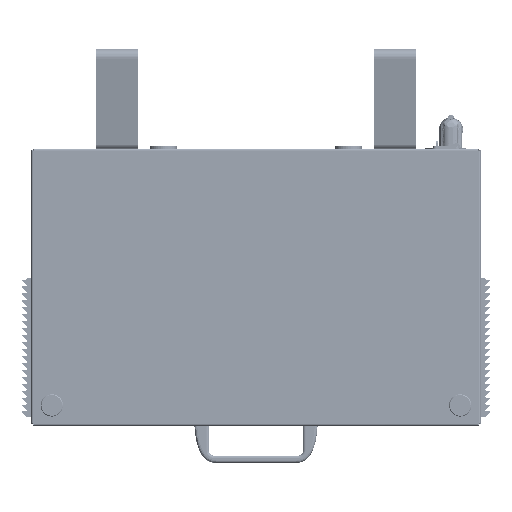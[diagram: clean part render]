
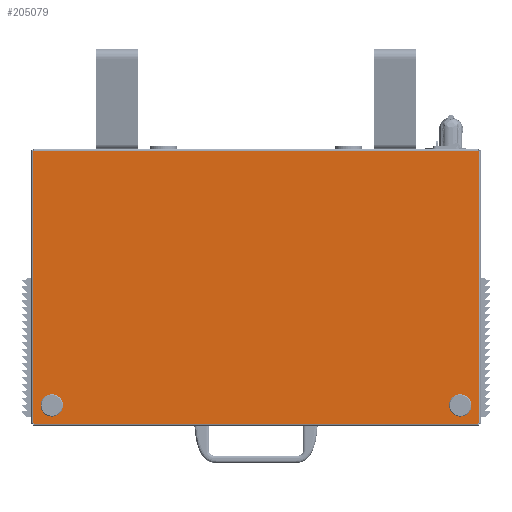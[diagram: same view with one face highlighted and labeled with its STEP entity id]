
A CAD part, front view. The second image highlights one B-rep face of the part: STEP entity #205079.
In plain terms, the highlighted planar face has unit normal (0, -1, 0).
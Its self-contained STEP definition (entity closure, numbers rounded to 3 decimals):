
#4456 = FACE_OUTER_BOUND ( 'NONE', #41337, .T. ) ;
#7977 = DIRECTION ( 'NONE',  ( 0., -1., 0. ) ) ;
#8018 = PLANE ( 'NONE',  #212602 ) ;
#8194 = EDGE_CURVE ( 'NONE', #258047, #339895, #63249, .T. ) ;
#30564 = CARTESIAN_POINT ( 'NONE',  ( -240.5, -1.2, -147.5 ) ) ;
#31804 = CARTESIAN_POINT ( 'NONE',  ( 0., -1.2, 0. ) ) ;
#32882 = CARTESIAN_POINT ( 'NONE',  ( -239.837, -1.2, -147.5 ) ) ;
#34088 = VERTEX_POINT ( 'NONE', #276323 ) ;
#35593 = AXIS2_PLACEMENT_3D ( 'NONE', #187916, #330021, #299119 ) ;
#35701 = CARTESIAN_POINT ( 'NONE',  ( 239.837, -1.2, 147.5 ) ) ;
#40310 = CARTESIAN_POINT ( 'NONE',  ( 220.5, -1.2, -131.5 ) ) ;
#41337 = EDGE_LOOP ( 'NONE', ( #113770, #277951, #53754, #291619, #253156, #264934, #174323, #214415 ) ) ;
#42402 = EDGE_CURVE ( 'NONE', #360351, #359265, #192575, .T. ) ;
#42729 = VECTOR ( 'NONE', #49772, 1000. ) ;
#44628 = EDGE_CURVE ( 'NONE', #359265, #360351, #287897, .T. ) ;
#47500 = DIRECTION ( 'NONE',  ( 0., 0., -1. ) ) ;
#49772 = DIRECTION ( 'NONE',  ( 1., 0., 0. ) ) ;
#51180 = CARTESIAN_POINT ( 'NONE',  ( 220.5, -1.2, -127.5 ) ) ;
#51356 = DIRECTION ( 'NONE',  ( 0., 0., 1. ) ) ;
#53754 = ORIENTED_EDGE ( 'NONE', *, *, #275795, .F. ) ;
#54575 = AXIS2_PLACEMENT_3D ( 'NONE', #126726, #101223, #157549 ) ;
#56749 = LINE ( 'NONE', #109552, #130066 ) ;
#62701 = FACE_BOUND ( 'NONE', #178696, .T. ) ;
#63249 = LINE ( 'NONE', #30564, #258014 ) ;
#73033 = CARTESIAN_POINT ( 'NONE',  ( 240.793, -1.2, 147.793 ) ) ;
#73337 = VERTEX_POINT ( 'NONE', #35701 ) ;
#79458 = CARTESIAN_POINT ( 'NONE',  ( 240.5, -1.2, -147.5 ) ) ;
#81415 = CIRCLE ( 'NONE', #284976, 4. ) ;
#82081 = AXIS2_PLACEMENT_3D ( 'NONE', #51180, #160332, #216877 ) ;
#85195 = DIRECTION ( 'NONE',  ( -1., 0., 0. ) ) ;
#85264 = DIRECTION ( 'NONE',  ( 0., -1., 0. ) ) ;
#85271 = VERTEX_POINT ( 'NONE', #162377 ) ;
#95729 = VERTEX_POINT ( 'NONE', #245304 ) ;
#98086 = AXIS2_PLACEMENT_3D ( 'NONE', #209675, #176895, #318955 ) ;
#99919 = VERTEX_POINT ( 'NONE', #40310 ) ;
#101223 = DIRECTION ( 'NONE',  ( 0., -1., 0. ) ) ;
#101861 = EDGE_CURVE ( 'NONE', #99919, #34088, #175062, .T. ) ;
#103805 = CIRCLE ( 'NONE', #98086, 1. ) ;
#109552 = CARTESIAN_POINT ( 'NONE',  ( -240.5, -1.2, -147.5 ) ) ;
#110158 = CARTESIAN_POINT ( 'NONE',  ( 240.5, -1.2, 146.837 ) ) ;
#110706 = EDGE_LOOP ( 'NONE', ( #261666, #219644 ) ) ;
#113770 = ORIENTED_EDGE ( 'NONE', *, *, #339437, .F. ) ;
#113951 = LINE ( 'NONE', #79458, #152045 ) ;
#115546 = DIRECTION ( 'NONE',  ( 0., 1., 0. ) ) ;
#116175 = DIRECTION ( 'NONE',  ( 0., 0., -1. ) ) ;
#116869 = CARTESIAN_POINT ( 'NONE',  ( 239.837, -1.2, -147.5 ) ) ;
#117959 = CARTESIAN_POINT ( 'NONE',  ( 240.793, -1.2, -147.793 ) ) ;
#119063 = DIRECTION ( 'NONE',  ( 0., 0., -1. ) ) ;
#126726 = CARTESIAN_POINT ( 'NONE',  ( -240.793, -1.2, -147.793 ) ) ;
#130066 = VECTOR ( 'NONE', #51356, 1000. ) ;
#140177 = CIRCLE ( 'NONE', #343759, 1. ) ;
#140594 = LINE ( 'NONE', #246476, #42729 ) ;
#146318 = CARTESIAN_POINT ( 'NONE',  ( -220.5, -1.2, -127.5 ) ) ;
#147381 = DIRECTION ( 'NONE',  ( 0., 0., -1. ) ) ;
#150286 = EDGE_CURVE ( 'NONE', #34088, #99919, #81415, .T. ) ;
#152045 = VECTOR ( 'NONE', #272602, 1000. ) ;
#157549 = DIRECTION ( 'NONE',  ( 0., 0., -1. ) ) ;
#157674 = CARTESIAN_POINT ( 'NONE',  ( 220.5, -1.2, -127.5 ) ) ;
#160332 = DIRECTION ( 'NONE',  ( 0., -1., 0. ) ) ;
#162377 = CARTESIAN_POINT ( 'NONE',  ( -240.5, -1.2, 146.837 ) ) ;
#172350 = EDGE_CURVE ( 'NONE', #295859, #85271, #56749, .T. ) ;
#174323 = ORIENTED_EDGE ( 'NONE', *, *, #8194, .F. ) ;
#175062 = CIRCLE ( 'NONE', #82081, 4. ) ;
#176895 = DIRECTION ( 'NONE',  ( 0., -1., 0. ) ) ;
#178696 = EDGE_LOOP ( 'NONE', ( #284949, #352080 ) ) ;
#183047 = AXIS2_PLACEMENT_3D ( 'NONE', #146318, #7977, #119063 ) ;
#185045 = DIRECTION ( 'NONE',  ( 0., -1., 0. ) ) ;
#187916 = CARTESIAN_POINT ( 'NONE',  ( -220.5, -1.2, -127.5 ) ) ;
#192575 = CIRCLE ( 'NONE', #35593, 4. ) ;
#194298 = EDGE_CURVE ( 'NONE', #338279, #258047, #325691, .T. ) ;
#205079 = ADVANCED_FACE ( 'NONE', ( #257633, #62701, #4456 ), #8018, .F. ) ;
#206424 = DIRECTION ( 'NONE',  ( 0., 0., 1. ) ) ;
#209675 = CARTESIAN_POINT ( 'NONE',  ( -240.793, -1.2, 147.793 ) ) ;
#211343 = CARTESIAN_POINT ( 'NONE',  ( -240.5, -1.2, -146.837 ) ) ;
#212602 = AXIS2_PLACEMENT_3D ( 'NONE', #31804, #115546, #206424 ) ;
#214415 = ORIENTED_EDGE ( 'NONE', *, *, #194298, .F. ) ;
#216877 = DIRECTION ( 'NONE',  ( 0., 0., -1. ) ) ;
#219644 = ORIENTED_EDGE ( 'NONE', *, *, #150286, .F. ) ;
#234327 = CARTESIAN_POINT ( 'NONE',  ( 240.5, -1.2, -146.837 ) ) ;
#245304 = CARTESIAN_POINT ( 'NONE',  ( -239.837, -1.2, 147.5 ) ) ;
#246476 = CARTESIAN_POINT ( 'NONE',  ( -240.5, -1.2, 147.5 ) ) ;
#253156 = ORIENTED_EDGE ( 'NONE', *, *, #172350, .F. ) ;
#257633 = FACE_BOUND ( 'NONE', #110706, .T. ) ;
#258014 = VECTOR ( 'NONE', #85195, 1000. ) ;
#258047 = VERTEX_POINT ( 'NONE', #116869 ) ;
#261666 = ORIENTED_EDGE ( 'NONE', *, *, #101861, .F. ) ;
#264934 = ORIENTED_EDGE ( 'NONE', *, *, #296442, .F. ) ;
#272602 = DIRECTION ( 'NONE',  ( 0., 0., -1. ) ) ;
#275795 = EDGE_CURVE ( 'NONE', #95729, #73337, #140594, .T. ) ;
#276323 = CARTESIAN_POINT ( 'NONE',  ( 220.5, -1.2, -123.5 ) ) ;
#277951 = ORIENTED_EDGE ( 'NONE', *, *, #321150, .F. ) ;
#284949 = ORIENTED_EDGE ( 'NONE', *, *, #42402, .F. ) ;
#284976 = AXIS2_PLACEMENT_3D ( 'NONE', #157674, #185045, #147381 ) ;
#287897 = CIRCLE ( 'NONE', #183047, 4. ) ;
#291619 = ORIENTED_EDGE ( 'NONE', *, *, #356917, .F. ) ;
#292028 = VERTEX_POINT ( 'NONE', #110158 ) ;
#295859 = VERTEX_POINT ( 'NONE', #211343 ) ;
#296442 = EDGE_CURVE ( 'NONE', #339895, #295859, #333699, .T. ) ;
#297038 = DIRECTION ( 'NONE',  ( 0., -1., 0. ) ) ;
#299119 = DIRECTION ( 'NONE',  ( 0., 0., -1. ) ) ;
#311354 = CARTESIAN_POINT ( 'NONE',  ( -220.5, -1.2, -123.5 ) ) ;
#318955 = DIRECTION ( 'NONE',  ( 0., 0., -1. ) ) ;
#321150 = EDGE_CURVE ( 'NONE', #73337, #292028, #140177, .T. ) ;
#323566 = CARTESIAN_POINT ( 'NONE',  ( -220.5, -1.2, -131.5 ) ) ;
#325691 = CIRCLE ( 'NONE', #343057, 1. ) ;
#330021 = DIRECTION ( 'NONE',  ( 0., -1., 0. ) ) ;
#333699 = CIRCLE ( 'NONE', #54575, 1. ) ;
#338279 = VERTEX_POINT ( 'NONE', #234327 ) ;
#339437 = EDGE_CURVE ( 'NONE', #292028, #338279, #113951, .T. ) ;
#339895 = VERTEX_POINT ( 'NONE', #32882 ) ;
#343057 = AXIS2_PLACEMENT_3D ( 'NONE', #117959, #85264, #116175 ) ;
#343759 = AXIS2_PLACEMENT_3D ( 'NONE', #73033, #297038, #47500 ) ;
#352080 = ORIENTED_EDGE ( 'NONE', *, *, #44628, .F. ) ;
#356917 = EDGE_CURVE ( 'NONE', #85271, #95729, #103805, .T. ) ;
#359265 = VERTEX_POINT ( 'NONE', #311354 ) ;
#360351 = VERTEX_POINT ( 'NONE', #323566 ) ;
